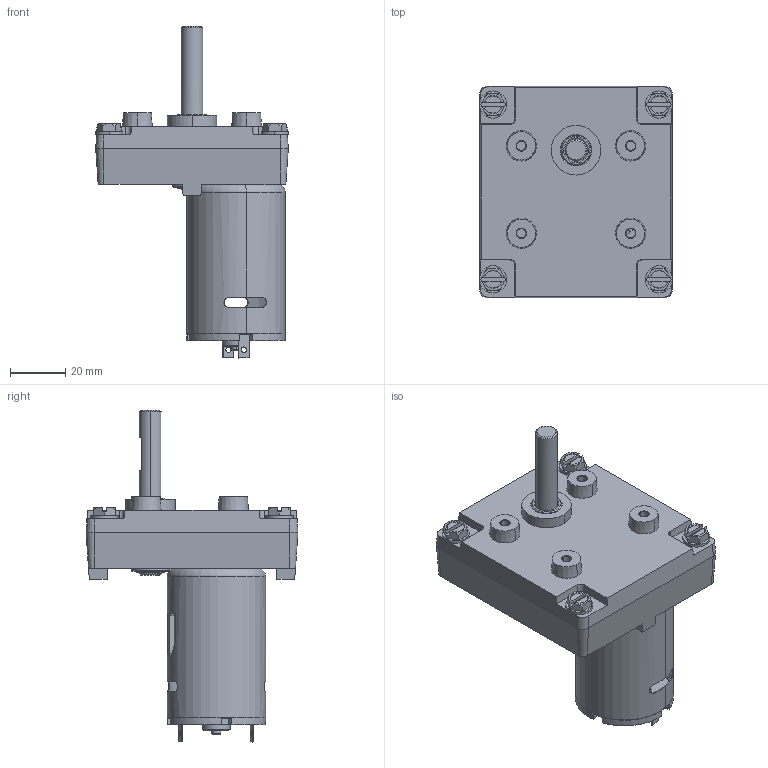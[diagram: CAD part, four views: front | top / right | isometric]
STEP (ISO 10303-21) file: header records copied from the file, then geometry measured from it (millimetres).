
FILE_DESCRIPTION (( 'STEP AP203' ), '1' );
FILE_NAME ('CJ-011-MR 710-106.STEP', '2018-04-02T17:25:58', ( '' ), ( '' ), 'SwSTEP 2.0', 'SolidWorks 2018', '' );
FILE_SCHEMA (( 'CONFIG_CONTROL_DESIGN' ));
Length unit declared in the file: millimetre
Products named in the file (2): CJ-011-MR 710-106
Bounding box: 70.1 x 77 x 120.6 mm (x, y, z)
Surface area: 36612.1 mm2 (no closed solid volume)
Topology: 0 solids, 13 shells, 372 faces, 1343 edges, 988 vertices
Faces by surface type: plane 182, cone 102, cylinder 84, torus 4
Entity records: 15523 total; most frequent: CARTESIAN_POINT 3673, DIRECTION 2463, ORIENTED_EDGE 2241, EDGE_CURVE 1343, VERTEX_POINT 988, AXIS2_PLACEMENT_3D 878, LINE 707, VECTOR 707
